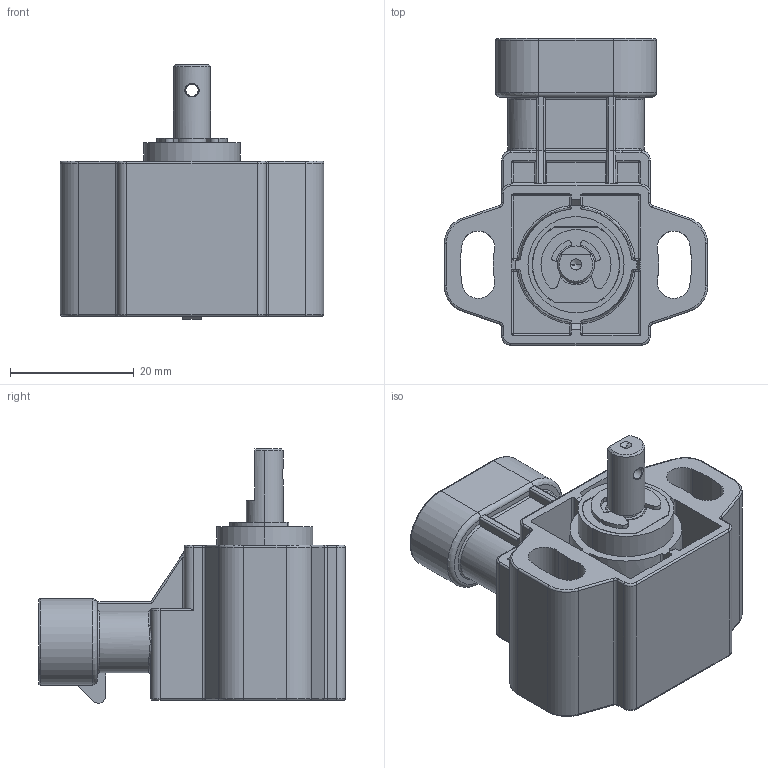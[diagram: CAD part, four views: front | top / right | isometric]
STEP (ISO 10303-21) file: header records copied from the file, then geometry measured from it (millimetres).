
FILE_DESCRIPTION (( 'STEP AP203' ), '1' );
FILE_NAME ('GR3PA S3E2SL xxx xxxx X0.STEP', '2024-12-19T14:46:54', ( '' ), ( '' ), 'SwSTEP 2.0', 'SolidWorks 2024', '' );
FILE_SCHEMA (( 'CONFIG_CONTROL_DESIGN' ));
Length unit declared in the file: millimetre
Products named in the file (1): GR3PA S3E2SL xxx xxxx X0
Bounding box: 42.5 x 49.5 x 41.07 mm (x, y, z)
Volume: 22364.9 mm3; surface area: 11762.2 mm2
Topology: 7 solids, 7 shells, 504 faces, 1225 edges, 733 vertices
Faces by surface type: cylinder 197, plane 173, torus 48, bspline 43, sphere 27, cone 16
Entity records: 17346 total; most frequent: CARTESIAN_POINT 5716, DIRECTION 2439, ORIENTED_EDGE 2402, EDGE_CURVE 1201, AXIS2_PLACEMENT_3D 917, VERTEX_POINT 733, LINE 605, VECTOR 605
